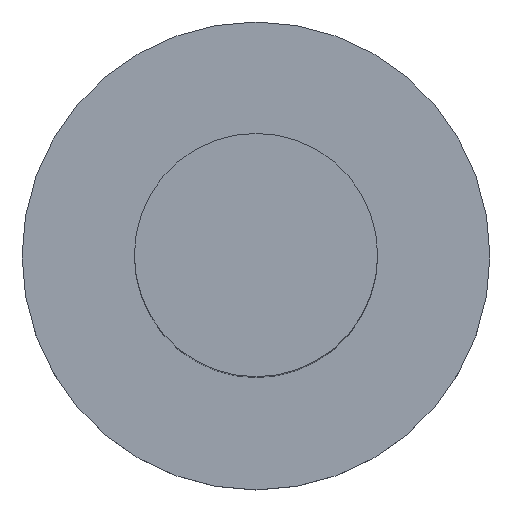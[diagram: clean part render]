
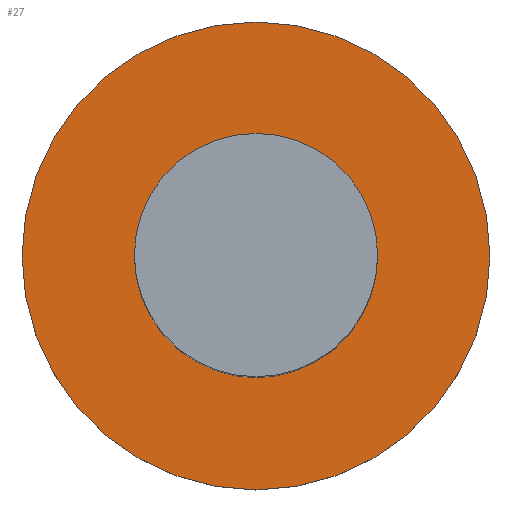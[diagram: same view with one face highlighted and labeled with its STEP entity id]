
A CAD part, top view. The second image highlights one B-rep face of the part: STEP entity #27.
In plain terms, the highlighted planar face has unit normal (0, 0, 1).
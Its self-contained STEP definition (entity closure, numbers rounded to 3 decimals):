
#27 = ADVANCED_FACE ( 'NONE', ( #695, #583 ), #304, .T. ) ;
#42 = DIRECTION ( 'NONE',  ( 1., 0., 0. ) ) ;
#124 = ORIENTED_EDGE ( 'NONE', *, *, #277, .F. ) ;
#149 = AXIS2_PLACEMENT_3D ( 'NONE', #526, #919, #42 ) ;
#187 = DIRECTION ( 'NONE',  ( 1., 0., 0. ) ) ;
#195 = VERTEX_POINT ( 'NONE', #722 ) ;
#206 = DIRECTION ( 'NONE',  ( 1., 0., 0. ) ) ;
#235 = DIRECTION ( 'NONE',  ( 1., 0., 0. ) ) ;
#236 = EDGE_CURVE ( 'NONE', #914, #195, #666, .T. ) ;
#247 = ORIENTED_EDGE ( 'NONE', *, *, #421, .F. ) ;
#267 = DIRECTION ( 'NONE',  ( 0., 0., 1. ) ) ;
#277 = EDGE_CURVE ( 'NONE', #880, #1026, #370, .T. ) ;
#304 = PLANE ( 'NONE',  #351 ) ;
#351 = AXIS2_PLACEMENT_3D ( 'NONE', #397, #874, #235 ) ;
#370 = CIRCLE ( 'NONE', #427, 2.6 ) ;
#397 = CARTESIAN_POINT ( 'NONE',  ( 0., 0., 1. ) ) ;
#421 = EDGE_CURVE ( 'NONE', #1026, #880, #469, .T. ) ;
#424 = DIRECTION ( 'NONE',  ( 1., 0., 0. ) ) ;
#427 = AXIS2_PLACEMENT_3D ( 'NONE', #739, #267, #187 ) ;
#456 = CARTESIAN_POINT ( 'NONE',  ( 5., 0., 1. ) ) ;
#469 = CIRCLE ( 'NONE', #616, 2.6 ) ;
#499 = AXIS2_PLACEMENT_3D ( 'NONE', #901, #907, #424 ) ;
#526 = CARTESIAN_POINT ( 'NONE',  ( 0., 0., 1. ) ) ;
#539 = CARTESIAN_POINT ( 'NONE',  ( 2.6, 0., 1. ) ) ;
#568 = EDGE_LOOP ( 'NONE', ( #247, #124 ) ) ;
#583 = FACE_BOUND ( 'NONE', #568, .T. ) ;
#584 = EDGE_LOOP ( 'NONE', ( #721, #933 ) ) ;
#608 = CARTESIAN_POINT ( 'NONE',  ( 0., 0., 1. ) ) ;
#616 = AXIS2_PLACEMENT_3D ( 'NONE', #608, #916, #206 ) ;
#666 = CIRCLE ( 'NONE', #499, 5. ) ;
#695 = FACE_OUTER_BOUND ( 'NONE', #584, .T. ) ;
#721 = ORIENTED_EDGE ( 'NONE', *, *, #852, .T. ) ;
#722 = CARTESIAN_POINT ( 'NONE',  ( -5., 0., 1. ) ) ;
#739 = CARTESIAN_POINT ( 'NONE',  ( 0., 0., 1. ) ) ;
#784 = CARTESIAN_POINT ( 'NONE',  ( -2.6, 0., 1. ) ) ;
#852 = EDGE_CURVE ( 'NONE', #195, #914, #897, .T. ) ;
#874 = DIRECTION ( 'NONE',  ( 0., 0., 1. ) ) ;
#880 = VERTEX_POINT ( 'NONE', #539 ) ;
#897 = CIRCLE ( 'NONE', #149, 5. ) ;
#901 = CARTESIAN_POINT ( 'NONE',  ( 0., 0., 1. ) ) ;
#907 = DIRECTION ( 'NONE',  ( 0., 0., 1. ) ) ;
#914 = VERTEX_POINT ( 'NONE', #456 ) ;
#916 = DIRECTION ( 'NONE',  ( 0., 0., 1. ) ) ;
#919 = DIRECTION ( 'NONE',  ( 0., 0., 1. ) ) ;
#933 = ORIENTED_EDGE ( 'NONE', *, *, #236, .T. ) ;
#1026 = VERTEX_POINT ( 'NONE', #784 ) ;
